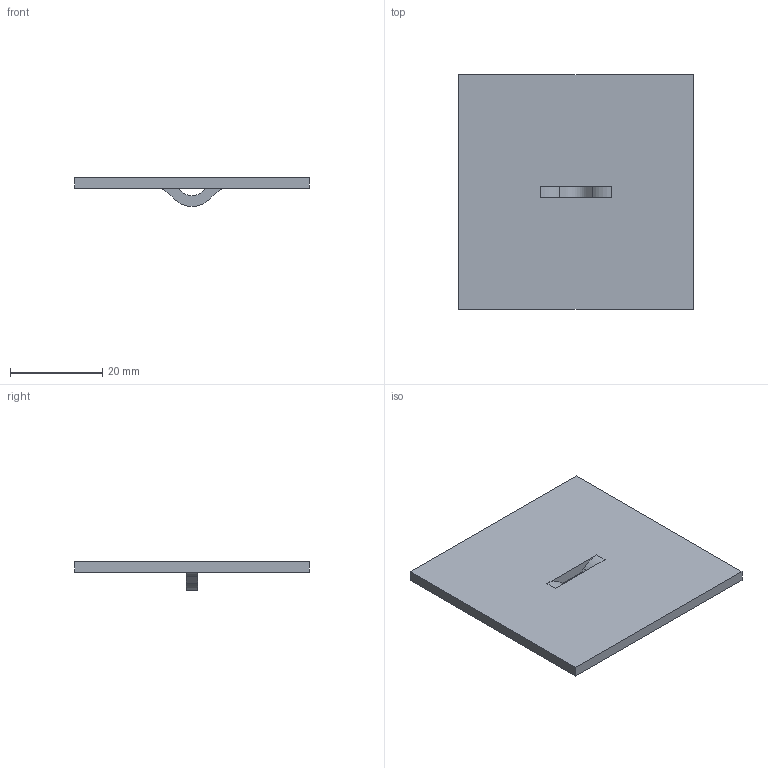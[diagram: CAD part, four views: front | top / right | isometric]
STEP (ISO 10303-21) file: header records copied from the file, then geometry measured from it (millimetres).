
FILE_DESCRIPTION((''),'1');
FILE_NAME('C:/Users/robertnolte/Desktop/WT#798974-50.stp','2012-03-28T19:49:21',(''),(''),'Spatial Interop R21 SP3','Kubotek KeyCreator 2011 V10.5.0 (24766)',' ');
FILE_SCHEMA(('CONFIG_CONTROL_DESIGN'));
Length unit declared in the file: inch
Products named in the file (1): 1
Bounding box: 50.8 x 50.8 x 6.23 mm (x, y, z)
Volume: 5914 mm3; surface area: 5731.3 mm2
Topology: 1 solids, 1 shells, 20 faces, 56 edges, 36 vertices
Faces by surface type: plane 14, cylinder 6
Entity records: 692 total; most frequent: CARTESIAN_POINT 113, ORIENTED_EDGE 112, DIRECTION 110, EDGE_CURVE 56, LINE 44, VECTOR 44, VERTEX_POINT 36, AXIS2_PLACEMENT_3D 33
